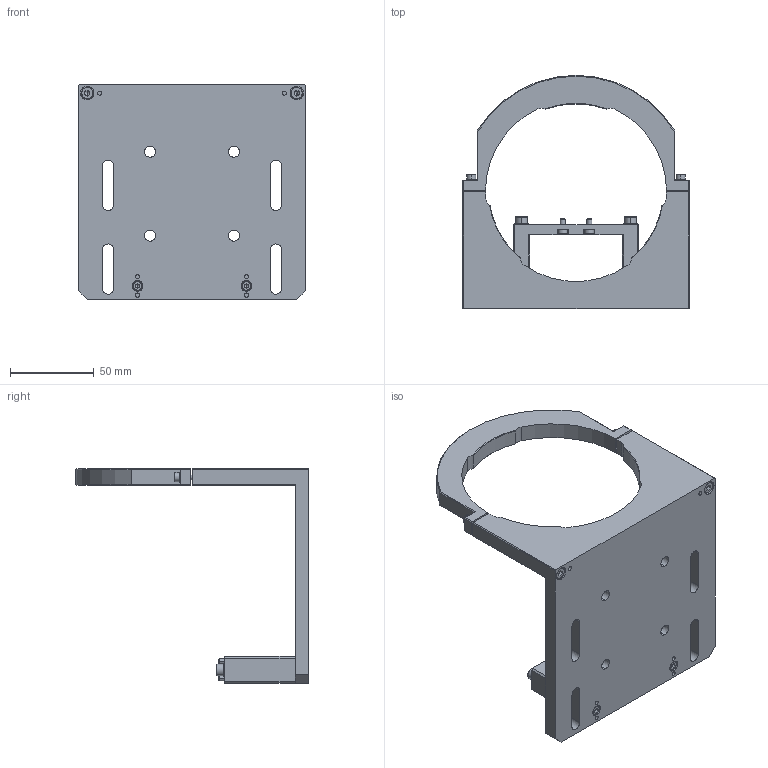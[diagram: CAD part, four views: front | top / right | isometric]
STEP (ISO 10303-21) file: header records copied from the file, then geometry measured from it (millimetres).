
FILE_DESCRIPTION (( 'STEP AP203' ), '1' );
FILE_NAME ('3d_MTL-CH80_a002.STEP', '2024-02-06T09:37:47', ( '' ), ( '' ), 'SwSTEP 2.0', 'SolidWorks 2020', '' );
FILE_SCHEMA (( 'CONFIG_CONTROL_DESIGN' ));
Length unit declared in the file: millimetre
Products named in the file (1): 3d_MTL-CH80_a002
Bounding box: 135 x 139 x 128 mm (x, y, z)
Volume: 214257.1 mm3; surface area: 68483.5 mm2
Topology: 1 solids, 21 shells, 587 faces, 1390 edges, 848 vertices
Faces by surface type: plane 274, cylinder 177, cone 88, torus 48
Entity records: 16755 total; most frequent: DIRECTION 3108, CARTESIAN_POINT 2834, ORIENTED_EDGE 2700, EDGE_CURVE 1350, AXIS2_PLACEMENT_3D 1186, VERTEX_POINT 848, VECTOR 736, LINE 736
